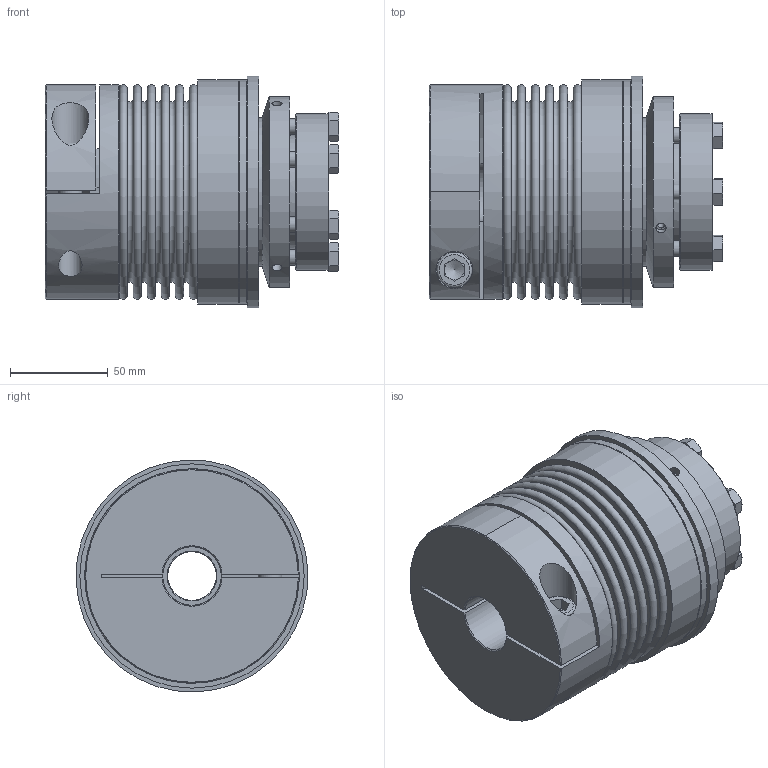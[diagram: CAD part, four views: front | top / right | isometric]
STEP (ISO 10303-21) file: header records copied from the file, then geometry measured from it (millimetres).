
FILE_DESCRIPTION( ( 'Unknown' ), '1' );
FILE_NAME( 'C:/Users/skarpstein/Desktop/Korrigierte 3D Modelle/KBK-B-KA/KBK-BKA-300-150.stp', 'Unknown', ( 'Unknown' ), ( 'Unknown' ), 'PSStep 16.0.42', 'Unknown', ' ' );
FILE_SCHEMA( ( 'AUTOMOTIVE_DESIGN { 1 0 10303 214 1 1 1 1 }' ) );
Length unit declared in the file: millimetre
Products named in the file (10): Assem1; Stellring 300; Druckring 300; Flansch BK300; BL300_Standard_0; KN300_Standard_2; Socket Head Cap Screw_DIN_DIN 912 M12 x 40 --- 40N_0; KBK L-A-300 Grundkörper; Druckring L-A-300; din_en_24017_m8x30
Assembly tree (14 placements, depth 2):
  Assem1
    Stellring 300
    Druckring 300
    Flansch BK300
    BL300_Standard_0
    KN300_Standard_2
    Socket Head Cap Screw_DIN_DIN 912 M12 x 40 --- 40N_0
    KBK L-A-300 Grundkörper
    Druckring L-A-300
    din_en_24017_m8x30  x6
Bounding box: 150.7 x 118.94 x 118.94 mm (x, y, z)
Volume: 772080.5 mm3; surface area: 254198.1 mm2
Topology: 14 solids, 14 shells, 320 faces, 664 edges, 426 vertices
Faces by surface type: plane 155, cone 73, cylinder 61, torus 31
Full cylindrical faces by diameter (mm): 3.242 x3, 5.2 x3, 6.647 x6, 8 x6, 8.5 x6, 11.63 x6, 12 x2, 12.5 x1, 18 x1, 19 x1, 25 x1, 30 x1, 52 x1, 55 x2, 57.995 x1, 76 x2, 80 x1, 83.5 x1, 88 x1, 90 x1, 98 x1, 98.5 x1, 99.8 x2, 101 x2, 110 x1, 115 x2, 119 x1
Entity records: 7405 total; most frequent: CARTESIAN_POINT 1419, DIRECTION 927, ORIENTED_EDGE 626, AXIS2_PLACEMENT_3D 426, EDGE_LOOP 374, EDGE_CURVE 313, FACE_OUTER_BOUND 281, VERTEX_POINT 266
